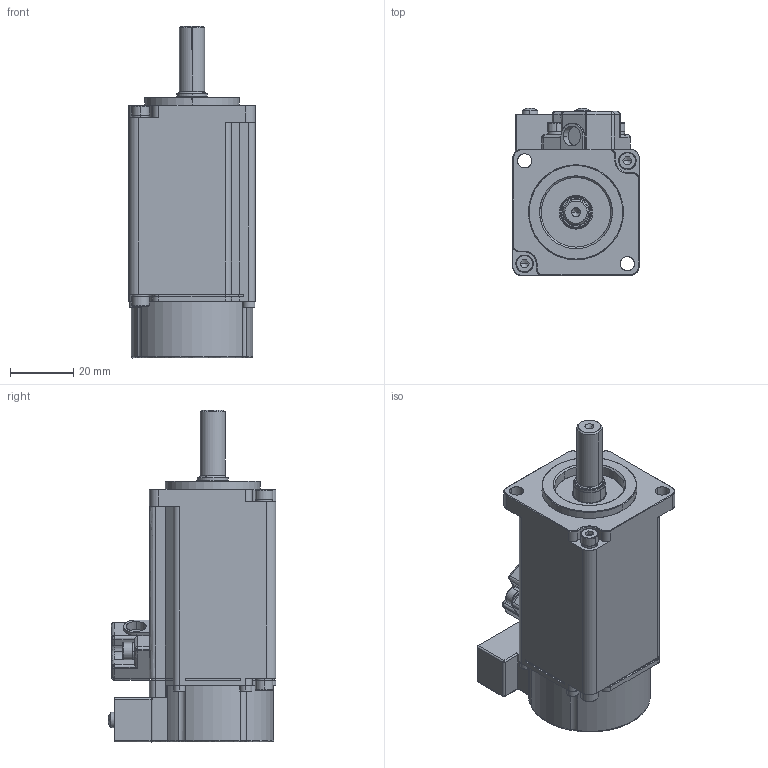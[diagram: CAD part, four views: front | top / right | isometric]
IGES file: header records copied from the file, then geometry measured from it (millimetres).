
Start section: SolidWorks IGES file using analytic representation for surfaces
Global section: file name: C:\景翔\圖面\20200518_SMESMP  馬達尺寸錯誤修正\(NEW)自行修改\3D-IGS\SME-L010.IGS; native system: SolidWorks 2016; preprocessor: SolidWorks 2016; author: 13521; date: 200518.163157; units: millimetre
Bounding box: 40 x 53.07 x 105 mm (x, y, z)
Surface area: 32577.1 mm2 (no closed solid volume)
Topology: 0 solids, 0 shells, 813 faces, 10162 edges, 10086 vertices
Faces by surface type: revolution 410, bspline 403
